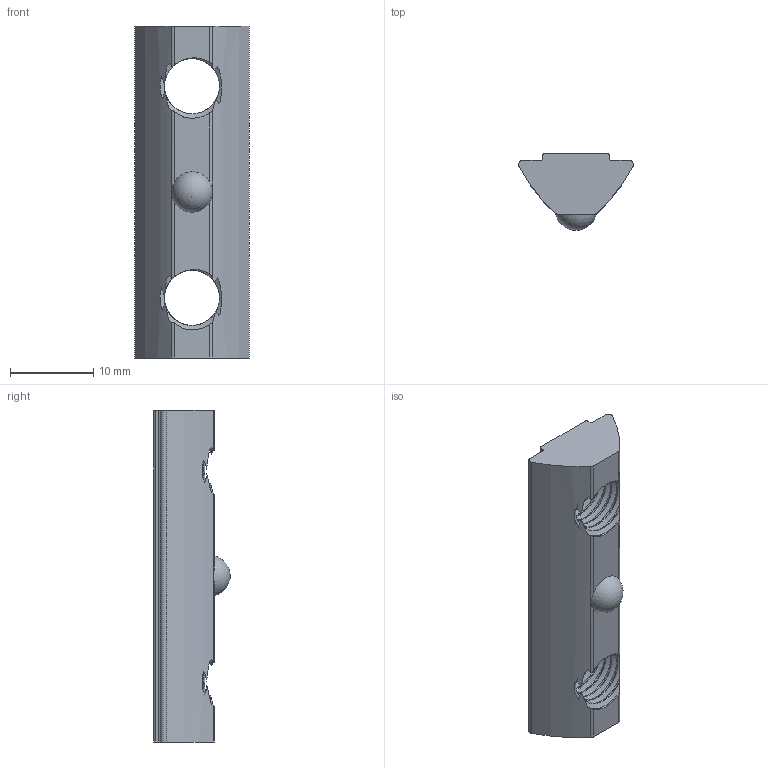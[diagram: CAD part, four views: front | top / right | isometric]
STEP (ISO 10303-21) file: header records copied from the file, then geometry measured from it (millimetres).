
FILE_DESCRIPTION (( 'STEP AP203' ), '1' );
FILE_NAME ('355055_Nutenstein 8 2xM8 L=40mm einschwenkbar mit Kugel und Steg.step', '2022-04-07T12:32:57', ( '' ), ( '' ), 'SwSTEP 2.0', 'SolidWorks 2021', '' );
FILE_SCHEMA (( 'CONFIG_CONTROL_DESIGN' ));
Length unit declared in the file: millimetre
Products named in the file (1): 355055_Nutenstein 8 2xM8 L=40mm einschwenkbar mit Kugel und Steg
Bounding box: 13.8 x 9.2 x 40 mm (x, y, z)
Volume: 2330.2 mm3; surface area: 1896.3 mm2
Topology: 1 solids, 1 shells, 91 faces, 282 edges, 188 vertices
Faces by surface type: cylinder 47, bspline 22, plane 15, cone 6, sphere 1
Entity records: 13124 total; most frequent: CARTESIAN_POINT 10969, ORIENTED_EDGE 558, DIRECTION 293, EDGE_CURVE 279, VERTEX_POINT 186, B_SPLINE_CURVE_WITH_KNOTS 116, AXIS2_PLACEMENT_3D 108, ADVANCED_FACE 91
